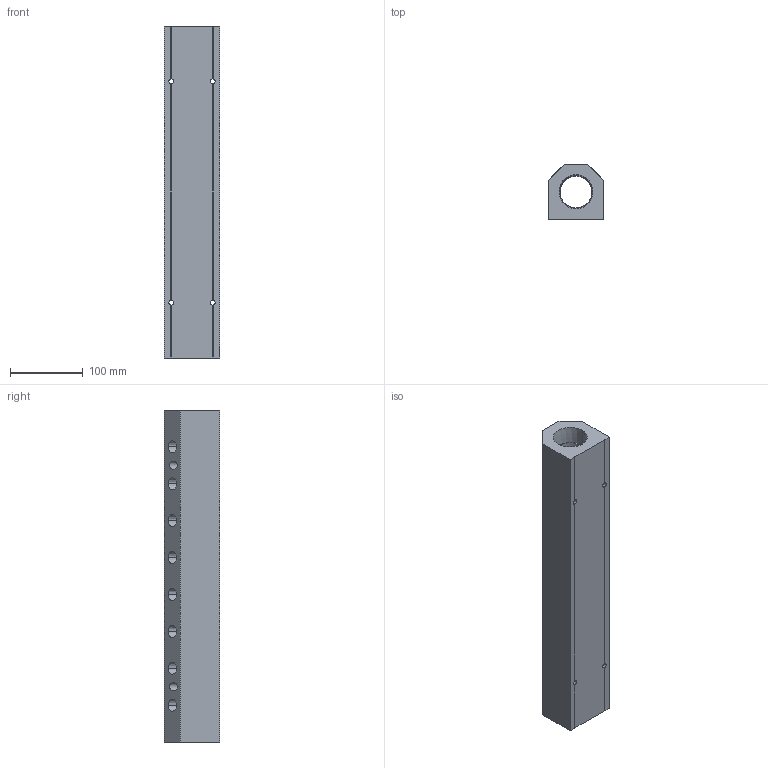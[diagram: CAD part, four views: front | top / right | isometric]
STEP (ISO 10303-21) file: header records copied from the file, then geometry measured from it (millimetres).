
FILE_DESCRIPTION (( 'STEP AP214' ), '1' );
FILE_NAME ('ALM8BD-N6N24-457B.step', '2022-02-07T09:08:33', ( '' ), ( '' ), 'SwSTEP 2.0', 'SolidWorks 2020', '' );
FILE_SCHEMA (( 'AUTOMOTIVE_DESIGN' ));
Length unit declared in the file: millimetre
Products named in the file (1): ALM8BD-N6N24-457B
Bounding box: 76.2 x 76.2 x 457 mm (x, y, z)
Volume: 1649302.3 mm3; surface area: 210980.6 mm2
Topology: 1 solids, 1 shells, 338 faces, 892 edges, 592 vertices
Faces by surface type: plane 216, bspline 68, cone 36, cylinder 18
Entity records: 19128 total; most frequent: CARTESIAN_POINT 7995, ORIENTED_EDGE 1784, DIRECTION 1318, EDGE_CURVE 892, VECTOR 640, LINE 640, VERTEX_POINT 592, EDGE_LOOP 416
